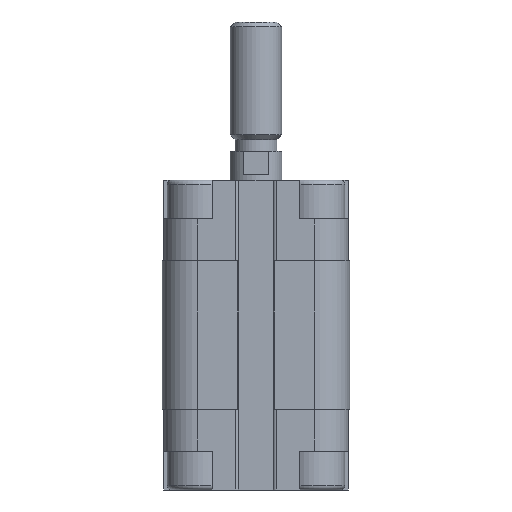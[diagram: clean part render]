
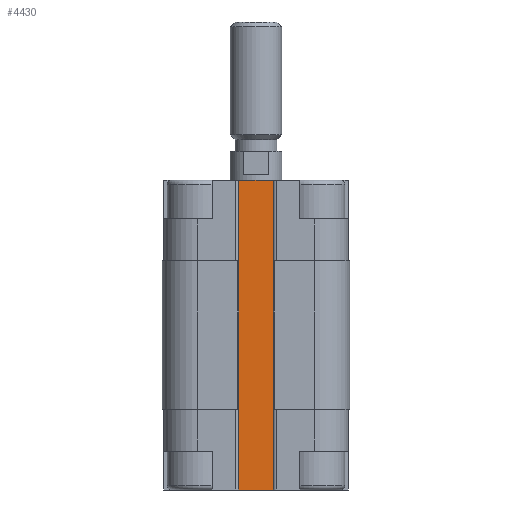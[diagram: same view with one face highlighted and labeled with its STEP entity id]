
A CAD part, front view. The second image highlights one B-rep face of the part: STEP entity #4430.
In plain terms, the highlighted planar face has unit normal (0, -1, 0).
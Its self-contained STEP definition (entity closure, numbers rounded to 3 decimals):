
#277 = DIRECTION ( 'NONE',  ( 1., 0., 0. ) ) ;
#301 = CARTESIAN_POINT ( 'NONE',  ( 3., -9.5, -35.5 ) ) ;
#510 = VERTEX_POINT ( 'NONE', #12218 ) ;
#1058 = VECTOR ( 'NONE', #7730, 1000. ) ;
#1232 = DIRECTION ( 'NONE',  ( 1., 0., 0. ) ) ;
#1458 = CARTESIAN_POINT ( 'NONE',  ( -3.2, -9.5, -35.5 ) ) ;
#1995 = VECTOR ( 'NONE', #10585, 1000. ) ;
#2075 = DIRECTION ( 'NONE',  ( 0., -1., 0. ) ) ;
#2379 = CARTESIAN_POINT ( 'NONE',  ( 3., -9.5, 0. ) ) ;
#2526 = VECTOR ( 'NONE', #3693, 1000. ) ;
#2568 = VECTOR ( 'NONE', #277, 1000. ) ;
#2709 = ORIENTED_EDGE ( 'NONE', *, *, #14871, .F. ) ;
#2786 = CARTESIAN_POINT ( 'NONE',  ( -3., -9.5, -48. ) ) ;
#3041 = LINE ( 'NONE', #11210, #7233 ) ;
#3288 = EDGE_CURVE ( 'NONE', #16811, #15594, #8261, .T. ) ;
#3599 = CARTESIAN_POINT ( 'NONE',  ( 9., -9.5, -12.5 ) ) ;
#3693 = DIRECTION ( 'NONE',  ( 0., 0., 1. ) ) ;
#3735 = LINE ( 'NONE', #14528, #1995 ) ;
#3831 = CARTESIAN_POINT ( 'NONE',  ( 3.2, -9.5, -35.5 ) ) ;
#3852 = LINE ( 'NONE', #3599, #5659 ) ;
#4350 = ORIENTED_EDGE ( 'NONE', *, *, #14676, .F. ) ;
#4430 = ADVANCED_FACE ( 'NONE', ( #8927 ), #12883, .T. ) ;
#4751 = ORIENTED_EDGE ( 'NONE', *, *, #11021, .T. ) ;
#4858 = CARTESIAN_POINT ( 'NONE',  ( -3.2, -9.5, -35.5 ) ) ;
#4950 = EDGE_CURVE ( 'NONE', #11662, #9345, #16886, .T. ) ;
#5049 = CARTESIAN_POINT ( 'NONE',  ( -3., -9.5, -12.5 ) ) ;
#5180 = CARTESIAN_POINT ( 'NONE',  ( 3., -9.5, -48. ) ) ;
#5210 = EDGE_CURVE ( 'NONE', #9345, #14175, #13541, .T. ) ;
#5535 = CARTESIAN_POINT ( 'NONE',  ( 3., -9.5, -48. ) ) ;
#5659 = VECTOR ( 'NONE', #13093, 1000. ) ;
#5905 = VERTEX_POINT ( 'NONE', #301 ) ;
#6010 = ORIENTED_EDGE ( 'NONE', *, *, #9911, .F. ) ;
#6298 = VECTOR ( 'NONE', #12308, 1000. ) ;
#6852 = EDGE_CURVE ( 'NONE', #5905, #12193, #14309, .T. ) ;
#6944 = CARTESIAN_POINT ( 'NONE',  ( -3.2, -9.5, -12.5 ) ) ;
#7233 = VECTOR ( 'NONE', #1232, 1000. ) ;
#7730 = DIRECTION ( 'NONE',  ( 0., 0., 1. ) ) ;
#8192 = EDGE_CURVE ( 'NONE', #15594, #5905, #15549, .T. ) ;
#8230 = ORIENTED_EDGE ( 'NONE', *, *, #4950, .F. ) ;
#8261 = LINE ( 'NONE', #14941, #2568 ) ;
#8325 = EDGE_CURVE ( 'NONE', #10100, #16435, #3041, .T. ) ;
#8497 = LINE ( 'NONE', #12546, #8755 ) ;
#8755 = VECTOR ( 'NONE', #9011, 1000. ) ;
#8830 = ORIENTED_EDGE ( 'NONE', *, *, #8325, .F. ) ;
#8927 = FACE_OUTER_BOUND ( 'NONE', #14382, .T. ) ;
#9011 = DIRECTION ( 'NONE',  ( 0., 0., 1. ) ) ;
#9046 = LINE ( 'NONE', #15964, #9488 ) ;
#9203 = ORIENTED_EDGE ( 'NONE', *, *, #5210, .F. ) ;
#9345 = VERTEX_POINT ( 'NONE', #12754 ) ;
#9488 = VECTOR ( 'NONE', #16940, 1000. ) ;
#9911 = EDGE_CURVE ( 'NONE', #16811, #16855, #12185, .T. ) ;
#10063 = DIRECTION ( 'NONE',  ( -1., 0., 0. ) ) ;
#10100 = VERTEX_POINT ( 'NONE', #11388 ) ;
#10202 = CARTESIAN_POINT ( 'NONE',  ( 3.2, -9.5, -35.5 ) ) ;
#10369 = LINE ( 'NONE', #10202, #2526 ) ;
#10503 = ORIENTED_EDGE ( 'NONE', *, *, #3288, .T. ) ;
#10585 = DIRECTION ( 'NONE',  ( 1., 0., 0. ) ) ;
#11021 = EDGE_CURVE ( 'NONE', #510, #16435, #9046, .T. ) ;
#11210 = CARTESIAN_POINT ( 'NONE',  ( -3., -9.5, 0. ) ) ;
#11388 = CARTESIAN_POINT ( 'NONE',  ( -3., -9.5, 0. ) ) ;
#11575 = AXIS2_PLACEMENT_3D ( 'NONE', #5049, #2075, #10063 ) ;
#11581 = CARTESIAN_POINT ( 'NONE',  ( -3., -9.5, -48. ) ) ;
#11662 = VERTEX_POINT ( 'NONE', #1458 ) ;
#12185 = LINE ( 'NONE', #2786, #15354 ) ;
#12193 = VERTEX_POINT ( 'NONE', #3831 ) ;
#12218 = CARTESIAN_POINT ( 'NONE',  ( 3., -9.5, -12.5 ) ) ;
#12308 = DIRECTION ( 'NONE',  ( 1., 0., 0. ) ) ;
#12546 = CARTESIAN_POINT ( 'NONE',  ( -3., -9.5, -12.5 ) ) ;
#12558 = DIRECTION ( 'NONE',  ( 1., 0., 0. ) ) ;
#12645 = CARTESIAN_POINT ( 'NONE',  ( -3.2, -9.5, -35.5 ) ) ;
#12728 = CARTESIAN_POINT ( 'NONE',  ( -3., -9.5, -35.5 ) ) ;
#12754 = CARTESIAN_POINT ( 'NONE',  ( -3.2, -9.5, -12.5 ) ) ;
#12883 = PLANE ( 'NONE',  #11575 ) ;
#13052 = ORIENTED_EDGE ( 'NONE', *, *, #6852, .T. ) ;
#13093 = DIRECTION ( 'NONE',  ( 1., 0., 0. ) ) ;
#13541 = LINE ( 'NONE', #6944, #6298 ) ;
#13904 = EDGE_CURVE ( 'NONE', #11662, #16855, #3735, .T. ) ;
#14175 = VERTEX_POINT ( 'NONE', #16704 ) ;
#14309 = LINE ( 'NONE', #12645, #15022 ) ;
#14382 = EDGE_LOOP ( 'NONE', ( #8830, #2709, #9203, #8230, #15006, #6010, #10503, #15881, #13052, #17073, #4350, #4751 ) ) ;
#14528 = CARTESIAN_POINT ( 'NONE',  ( -3.2, -9.5, -35.5 ) ) ;
#14676 = EDGE_CURVE ( 'NONE', #510, #16056, #3852, .T. ) ;
#14871 = EDGE_CURVE ( 'NONE', #14175, #10100, #8497, .T. ) ;
#14941 = CARTESIAN_POINT ( 'NONE',  ( -3., -9.5, -48. ) ) ;
#15006 = ORIENTED_EDGE ( 'NONE', *, *, #13904, .T. ) ;
#15022 = VECTOR ( 'NONE', #12558, 1000. ) ;
#15354 = VECTOR ( 'NONE', #16047, 1000. ) ;
#15549 = LINE ( 'NONE', #5180, #1058 ) ;
#15567 = DIRECTION ( 'NONE',  ( 0., 0., 1. ) ) ;
#15594 = VERTEX_POINT ( 'NONE', #5535 ) ;
#15881 = ORIENTED_EDGE ( 'NONE', *, *, #8192, .T. ) ;
#15906 = CARTESIAN_POINT ( 'NONE',  ( 3.2, -9.5, -12.5 ) ) ;
#15964 = CARTESIAN_POINT ( 'NONE',  ( 3., -9.5, -12.5 ) ) ;
#16047 = DIRECTION ( 'NONE',  ( 0., 0., 1. ) ) ;
#16056 = VERTEX_POINT ( 'NONE', #15906 ) ;
#16382 = EDGE_CURVE ( 'NONE', #12193, #16056, #10369, .T. ) ;
#16383 = VECTOR ( 'NONE', #15567, 1000. ) ;
#16435 = VERTEX_POINT ( 'NONE', #2379 ) ;
#16704 = CARTESIAN_POINT ( 'NONE',  ( -3., -9.5, -12.5 ) ) ;
#16811 = VERTEX_POINT ( 'NONE', #11581 ) ;
#16855 = VERTEX_POINT ( 'NONE', #12728 ) ;
#16886 = LINE ( 'NONE', #4858, #16383 ) ;
#16940 = DIRECTION ( 'NONE',  ( 0., 0., 1. ) ) ;
#17073 = ORIENTED_EDGE ( 'NONE', *, *, #16382, .T. ) ;
